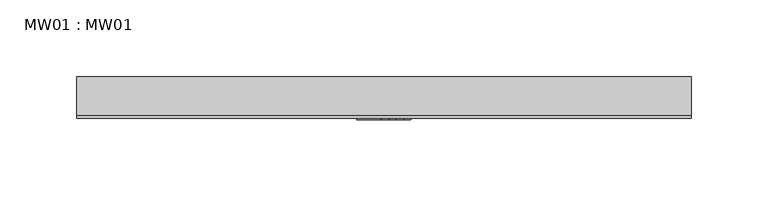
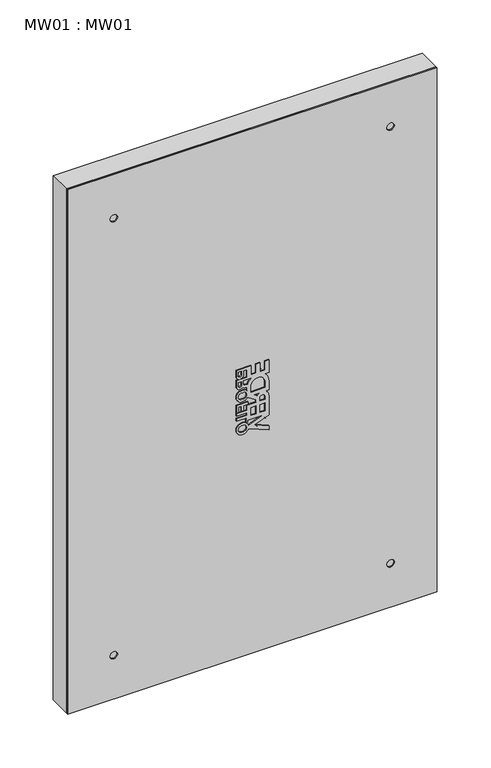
"""IFC4 building model written with IfcOpenShell, lengths in millimetres: furniture geometry, MW01 : MW01."""

from ifc_helpers import new_model, si_unit, point, frame, frame_2d, origin, origin_with_axes, place, context, project, spatial, polyline, circle_curve, trimmed, segment, composite_curve, outline, extrude, source, transform, mapped, element, save
from ifc_brep_helpers import plane_surface, revolved_surface, advanced_brep


def mw01_mw01_6ffa012e(model_context):
    return source(origin(), model_context, "Body", "SolidModel", [
        extrude(outline(composite_curve([segment(polyline([(250.0029313, -17.8017561), (259.1263206, 4.4804085)]), True, "CONTINUOUS"), segment(trimmed(circle_curve(frame_2d((260.9424832, 10.5061675)), 6.293506), [point((259.1263206, 4.4804085))], [point((254.6969645, 11.2818701))], False, "CARTESIAN"), True, "CONTINUOUS"), segment(trimmed(circle_curve(frame_2d((261.0968713, 11.0938845)), 6.4026671), [point((254.6969645, 11.2818701))], [point((267.4967874, 11.2815533))], False, "CARTESIAN"), True, "CONTINUOUS"), segment(trimmed(circle_curve(frame_2d((261.3674332, 10.4824163)), 6.1812298), [point((267.4967874, 11.2815533))], [point((266.6366498, 7.2508596))], False, "CARTESIAN"), True, "CONTINUOUS"), segment(polyline([(266.6366498, 7.2508596), (272.1985578, 7.2508596), (272.1985578, 17.5), (274.9975573, 17.5), (274.9975573, 6.1014296), (278.0324611, 6.1014296), (278.0324611, 17.5), (280.8314606, 17.5), (280.8314606, 6.1014296), (286.6653639, 6.1014296), (286.6653639, -3.6687466), (289.1299713, -3.6687466), (295.1516703, 5.1553517)]), True, "CONTINUOUS"), segment(trimmed(circle_curve(frame_2d((298.3979057, 10.4930021)), 6.247284), [point((295.1516703, 5.1553517))], [point((292.2006286, 11.2818701))], False, "CARTESIAN"), True, "CONTINUOUS"), segment(trimmed(circle_curve(frame_2d((298.6005354, 11.0938845)), 6.4026671), [point((292.2006286, 11.2818701))], [point((305.0003548, 11.2848204))], False, "CARTESIAN"), True, "CONTINUOUS"), segment(trimmed(circle_curve(frame_2d((298.8474176, 10.4841829)), 6.2048092), [point((305.0003548, 11.2848204))], [point((303.236655, 6.0984958))], False, "CARTESIAN"), True, "CONTINUOUS"), segment(polyline([(303.236655, 6.0984958), (306.3722889, 6.0984958)]), True, "CONTINUOUS"), segment(trimmed(circle_curve(frame_2d((306.1013235, -6.4185584)), 12.5199867), [point((306.3722889, 6.0984958))], [point((307.1998065, 6.0531457))], False, "CARTESIAN"), True, "CONTINUOUS"), segment(polyline([(307.1998065, 6.0531457), (307.1957781, 7.2083309)]), True, "CONTINUOUS"), segment(trimmed(circle_curve(frame_2d((310.6445381, 7.5091588)), 3.4618554), [point((307.1957781, 7.2083309))], [point((308.9376041, 10.5209389))], False, "CARTESIAN"), True, "CONTINUOUS"), segment(trimmed(circle_curve(frame_2d((310.9947244, 13.7081154)), 3.7933939), [point((308.9376041, 10.5209389))], [point((311.1017216, 17.5))], False, "CARTESIAN"), True, "CONTINUOUS"), segment(polyline([(311.1017216, 17.5), (318.3351247, 17.5), (318.3351247, 6.1014296), (327.2039318, 6.1014296), (327.2039318, 9.5452342), (322.7695278, 9.5452342)]), True, "CONTINUOUS"), segment(trimmed(circle_curve(frame_2d((322.7616703, 13.4897229)), 3.9444966), [point((322.7695278, 9.5452342))], [point((319.9229293, 10.7510001))], False, "CARTESIAN"), True, "CONTINUOUS"), segment(trimmed(circle_curve(frame_2d((322.6292957, 13.3601243)), 3.7592483), [point((319.9229293, 10.7510001))], [point((318.8735608, 13.5226171))], False, "CARTESIAN"), True, "CONTINUOUS"), segment(trimmed(circle_curve(frame_2d((322.7221332, 13.6496242)), 3.8506675), [point((318.8735608, 13.5226171))], [point((322.7695282, 17.5))], False, "CARTESIAN"), True, "CONTINUOUS"), segment(polyline([(322.7695282, 17.5), (330.0029313, 17.5), (330.0029313, 1.7386502), (320.0019542, 1.7386502), (320.0019542, -3.6687736), (330.0029313, -3.6687736), (330.0029313, -8.0315529), (320.0019542, -8.0315529), (320.0019542, -13.4389767), (330.0029313, -13.4389767), (330.0029313, -17.8017561), (315.5361252, -17.8017561), (315.5361252, -13.4583268)]), True, "CONTINUOUS"), segment(trimmed(circle_curve(frame_2d((306.1263016, -5.4371565)), 12.364625), [point((315.5361252, -13.4583268))], [point((306.1012331, -17.8017561))], False, "CARTESIAN"), True, "CONTINUOUS"), segment(polyline([(306.1012331, -17.8017561), (295.534171, -17.8017561), (295.534171, -14.6461135)]), True, "CONTINUOUS"), segment(trimmed(circle_curve(frame_2d((289.2137213, -9.8969468)), 7.9058629), [point((295.534171, -14.6461135))], [point((289.3427904, -17.8017561))], False, "CARTESIAN"), True, "CONTINUOUS"), segment(polyline([(289.3427904, -17.8017561), (267.380896, -17.8017561), (261.0968362, -2.4541203), (254.8127763, -17.8017561), (250.0029313, -17.8017561)]), True, "CONTINUOUS")], self_intersect=False), holes=[composite_curve([segment(polyline([(327.2039318, 11.8007148), (327.2039318, 15.2445193), (323.2087044, 15.2445193)]), True, "CONTINUOUS"), segment(trimmed(circle_curve(frame_2d((323.2087044, 13.5226171)), 1.7219023), [point((323.2087044, 15.2445193))], [point((323.2087044, 11.8007148))], True, "CARTESIAN"), True, "CONTINUOUS"), segment(polyline([(323.2087044, 11.8007148), (327.2039318, 11.8007148)]), True, "CONTINUOUS")], self_intersect=False), composite_curve([segment(polyline([(315.5361252, 1.756713), (315.5361252, 9.5452342), (311.8915282, 9.5452342)]), True, "CONTINUOUS"), segment(trimmed(circle_curve(frame_2d((312.3213971, 7.7754929)), 1.8212006), [point((311.8915282, 9.5452342))], [point((310.5054953, 7.9143174))], True, "CARTESIAN"), True, "CONTINUOUS"), segment(polyline([(310.5054953, 7.9143174), (310.0755395, 5.4531951)]), True, "CONTINUOUS"), segment(trimmed(circle_curve(frame_2d((306.2024335, -6.149841)), 12.2323913), [point((310.0755395, 5.4531951))], [point((315.5361252, 1.756713))], False, "CARTESIAN"), True, "CONTINUOUS")], self_intersect=False), composite_curve([segment(polyline([(302.2014892, 9.8027257), (302.2014892, 11.7167468)]), True, "CONTINUOUS"), segment(trimmed(circle_curve(frame_2d((298.6005253, 11.6277501)), 3.6020635), [point((302.2014892, 11.7167468))], [point((294.9995114, 11.7147019))], True, "CARTESIAN"), True, "CONTINUOUS"), segment(polyline([(294.9995114, 11.7147019), (294.9995114, 9.8027247)]), True, "CONTINUOUS"), segment(trimmed(circle_curve(frame_2d((298.6005003, 9.8908382)), 3.6020668), [point((294.9995114, 9.8027247))], [point((302.2014892, 9.8027257))], True, "CARTESIAN"), True, "CONTINUOUS")], self_intersect=False), composite_curve([segment(polyline([(257.4958473, 11.7147019), (257.4958473, 9.8027247)]), True, "CONTINUOUS"), segment(trimmed(circle_curve(frame_2d((261.0968362, 9.8908382)), 3.6020668), [point((257.4958473, 9.8027247))], [point((264.6978251, 9.8027258))], True, "CARTESIAN"), True, "CONTINUOUS"), segment(polyline([(264.6978251, 9.8027258), (264.6978251, 11.7167468)]), True, "CONTINUOUS"), segment(trimmed(circle_curve(frame_2d((261.0968612, 11.6277501)), 3.6020635), [point((264.6978251, 11.7167468))], [point((257.4958473, 11.7147019))], True, "CARTESIAN"), True, "CONTINUOUS")], self_intersect=False), composite_curve([segment(polyline([(268.8648988, -9.679011), (268.8648988, 4.9953846), (265.5312397, 4.9953846), (265.5312397, 5.9034033)]), True, "CONTINUOUS"), segment(trimmed(circle_curve(frame_2d((261.1333839, 10.6735224)), 6.4880792), [point((265.5312397, 5.9034033))], [point((263.06736, 4.4803884))], False, "CARTESIAN"), True, "CONTINUOUS"), segment(polyline([(263.06736, 4.4803884), (268.8648988, -9.679011)]), True, "CONTINUOUS")], self_intersect=False), polyline([(273.3307278, -13.4389767), (282.1995349, -13.4389767), (282.1995349, -8.0315529), (273.3307278, -8.0315529), (273.3307278, -13.4389767)]), polyline([(282.1995349, -3.6687735), (282.1995349, 1.7386503), (273.3307278, 1.7386503), (273.3307278, -3.6687735), (282.1995349, -3.6687735)]), composite_curve([segment(polyline([(286.6653639, -13.4390887), (289.4116724, -13.4390887)]), True, "CONTINUOUS"), segment(trimmed(circle_curve(frame_2d((289.4954146, -10.7346219)), 2.7057631), [point((289.4116724, -13.4390887))], [point((289.3746997, -8.0315529))], True, "CARTESIAN"), True, "CONTINUOUS"), segment(polyline([(289.3746997, -8.0315529), (286.6653639, -8.0315529), (286.6653639, -13.4390887)]), True, "CONTINUOUS")], self_intersect=False), composite_curve([segment(polyline([(295.534171, -6.9665296), (295.534171, -2.1490824), (293.5938272, -4.9923454)]), True, "CONTINUOUS"), segment(trimmed(circle_curve(frame_2d((287.7939225, -12.6334651)), 9.5929977), [point((293.5938272, -4.9923454))], [point((295.534171, -6.9665296))], False, "CARTESIAN"), True, "CONTINUOUS")], self_intersect=False), composite_curve([segment(polyline([(300.0, -13.4389767), (306.101233, -13.4389767)]), True, "CONTINUOUS"), segment(trimmed(circle_curve(frame_2d((306.2784141, -5.8501632)), 7.5908816), [point((306.101233, -13.4389767))], [point((306.1012331, 1.7386502))], True, "CARTESIAN"), True, "CONTINUOUS"), segment(polyline([(306.1012331, 1.7386502), (300.0, 1.7386502), (300.0, -13.4389767)]), True, "CONTINUOUS")], self_intersect=False), composite_curve([segment(polyline([(315.5361252, 11.8007148), (315.5361252, 15.2445193), (311.5408978, 15.2445193)]), True, "CONTINUOUS"), segment(trimmed(circle_curve(frame_2d((311.5408978, 13.5226171)), 1.7219023), [point((311.5408978, 15.2445193))], [point((311.5408978, 11.8007148))], True, "CARTESIAN"), True, "CONTINUOUS"), segment(polyline([(311.5408978, 11.8007148), (315.5361252, 11.8007148)]), True, "CONTINUOUS")], self_intersect=False)]), frame((0.0, 1.0, 0.0), z_axis=(0.0, 1.0, 0.0), x_axis=(0.0, 0.0, 1.0)), (0.0, 0.0, 1.0), 1.0),
        extrude(outline(polyline([(287.2000234, 11.8007148), (287.2000234, 15.2445194), (281.3661201, 15.2445194), (281.3661201, 17.5), (289.9990229, 17.5), (289.9990229, 4.9953846), (287.2000234, 4.9953846), (287.2000234, 9.5452342), (281.3661201, 9.5452342), (281.3661201, 11.8007148), (287.2000234, 11.8007148)])), frame((0.0, 1.0, 0.0), z_axis=(0.0, 1.0, 0.0), x_axis=(0.0, 0.0, 1.0)), (0.0, 0.0, 1.0), 1.0),
        extrude(outline(composite_curve([segment(polyline([(250.0029313, 17.5), (254.8127763, 17.5), (261.0968362, 2.1523642), (267.380896, 17.5), (289.3427904, 17.5)]), True, "CONTINUOUS"), segment(trimmed(circle_curve(frame_2d((289.2137213, 9.5951908)), 7.9058629), [point((289.3427904, 17.5))], [point((295.534171, 14.3443574))], False, "CARTESIAN"), True, "CONTINUOUS"), segment(polyline([(295.534171, 14.3443574), (295.534171, 17.5), (306.1012331, 17.5)]), True, "CONTINUOUS"), segment(trimmed(circle_curve(frame_2d((306.1263016, 5.1354004)), 12.364625), [point((306.1012331, 17.5))], [point((315.5361252, 13.1565707))], False, "CARTESIAN"), True, "CONTINUOUS"), segment(polyline([(315.5361252, 13.1565707), (315.5361252, 17.5), (330.0029313, 17.5), (330.0029313, 13.1372206), (320.0019542, 13.1372206), (320.0019542, 7.7297968), (330.0029313, 7.7297968), (330.0029313, 3.3670175), (320.0019542, 3.3670175), (320.0019542, -2.0404063), (330.0029313, -2.0404063), (330.0029313, -17.8017561), (322.7695282, -17.8017561)]), True, "CONTINUOUS"), segment(trimmed(circle_curve(frame_2d((322.7221332, -13.9513803)), 3.8506675), [point((322.7695282, -17.8017561))], [point((318.8735608, -13.8243732))], False, "CARTESIAN"), True, "CONTINUOUS"), segment(trimmed(circle_curve(frame_2d((322.6292957, -13.6618804)), 3.7592483), [point((318.8735608, -13.8243732))], [point((319.9229293, -11.0527562))], False, "CARTESIAN"), True, "CONTINUOUS"), segment(trimmed(circle_curve(frame_2d((322.7616703, -13.791479)), 3.9444966), [point((319.9229293, -11.0527562))], [point((322.7695278, -9.8469903))], False, "CARTESIAN"), True, "CONTINUOUS"), segment(polyline([(322.7695278, -9.8469903), (327.2039318, -9.8469903), (327.2039318, -6.4031857), (318.3351247, -6.4031857), (318.3351247, -17.8017561), (311.1017216, -17.8017561)]), True, "CONTINUOUS"), segment(trimmed(circle_curve(frame_2d((310.9947244, -14.0098715)), 3.7933939), [point((311.1017216, -17.8017561))], [point((308.9376041, -10.822695))], False, "CARTESIAN"), True, "CONTINUOUS"), segment(trimmed(circle_curve(frame_2d((310.6445381, -7.8109149)), 3.4618554), [point((308.9376041, -10.822695))], [point((307.1957781, -7.510087))], False, "CARTESIAN"), True, "CONTINUOUS"), segment(polyline([(307.1957781, -7.510087), (307.1998065, -6.3549018)]), True, "CONTINUOUS"), segment(trimmed(circle_curve(frame_2d((306.1013235, 6.1168023)), 12.5199867), [point((307.1998065, -6.3549018))], [point((306.3722889, -6.4002519))], False, "CARTESIAN"), True, "CONTINUOUS"), segment(polyline([(306.3722889, -6.4002519), (303.236655, -6.4002519)]), True, "CONTINUOUS"), segment(trimmed(circle_curve(frame_2d((298.8474176, -10.785939)), 6.2048092), [point((303.236655, -6.4002519))], [point((305.0003548, -11.5865765))], False, "CARTESIAN"), True, "CONTINUOUS"), segment(trimmed(circle_curve(frame_2d((298.6005354, -11.3956406)), 6.4026671), [point((305.0003548, -11.5865765))], [point((292.2006286, -11.5836262))], False, "CARTESIAN"), True, "CONTINUOUS"), segment(trimmed(circle_curve(frame_2d((298.3979057, -10.7947582)), 6.247284), [point((292.2006286, -11.5836262))], [point((295.1516703, -5.4571078))], False, "CARTESIAN"), True, "CONTINUOUS"), segment(polyline([(295.1516703, -5.4571078), (289.1299713, 3.3669905), (286.6653639, 3.3669905), (286.6653639, -6.4031857), (280.8314606, -6.4031857), (280.8314606, -17.8017561), (278.0324611, -17.8017561), (278.0324611, -6.4031857), (274.9975573, -6.4031857), (274.9975573, -17.8017561), (272.1985578, -17.8017561), (272.1985578, -7.5526157), (266.6366498, -7.5526157)]), True, "CONTINUOUS"), segment(trimmed(circle_curve(frame_2d((261.3674332, -10.7841724)), 6.1812298), [point((266.6366498, -7.5526157))], [point((267.4967874, -11.5833094))], False, "CARTESIAN"), True, "CONTINUOUS"), segment(trimmed(circle_curve(frame_2d((261.0968713, -11.3956406)), 6.4026671), [point((267.4967874, -11.5833094))], [point((254.6969645, -11.5836262))], False, "CARTESIAN"), True, "CONTINUOUS"), segment(trimmed(circle_curve(frame_2d((260.9424832, -10.8079236)), 6.293506), [point((254.6969645, -11.5836262))], [point((259.1263206, -4.7821646))], False, "CARTESIAN"), True, "CONTINUOUS"), segment(polyline([(259.1263206, -4.7821646), (250.0029313, 17.5)]), True, "CONTINUOUS")], self_intersect=False), holes=[composite_curve([segment(polyline([(327.2039318, -12.1024709), (323.2087044, -12.1024709)]), True, "CONTINUOUS"), segment(trimmed(circle_curve(frame_2d((323.2087044, -13.8243732)), 1.7219023), [point((323.2087044, -12.1024709))], [point((323.2087044, -15.5462754))], True, "CARTESIAN"), True, "CONTINUOUS"), segment(polyline([(323.2087044, -15.5462754), (327.2039318, -15.5462754), (327.2039318, -12.1024709)]), True, "CONTINUOUS")], self_intersect=False), composite_curve([segment(trimmed(circle_curve(frame_2d((306.2024335, 5.8480849)), 12.2323913), [point((315.5361252, -2.0584691))], [point((310.0755395, -5.7549512))], False, "CARTESIAN"), True, "CONTINUOUS"), segment(polyline([(310.0755395, -5.7549512), (310.5054953, -8.2160735)]), True, "CONTINUOUS"), segment(trimmed(circle_curve(frame_2d((312.3213971, -8.077249)), 1.8212006), [point((310.5054953, -8.2160735))], [point((311.8915282, -9.8469903))], True, "CARTESIAN"), True, "CONTINUOUS"), segment(polyline([(311.8915282, -9.8469903), (315.5361252, -9.8469903), (315.5361252, -2.0584691)]), True, "CONTINUOUS")], self_intersect=False), composite_curve([segment(trimmed(circle_curve(frame_2d((298.6005003, -10.1925943)), 3.6020668), [point((302.2014892, -10.1044818))], [point((294.9995114, -10.1044808))], True, "CARTESIAN"), True, "CONTINUOUS"), segment(polyline([(294.9995114, -10.1044808), (294.9995114, -12.016458)]), True, "CONTINUOUS"), segment(trimmed(circle_curve(frame_2d((298.6005253, -11.9295062)), 3.6020635), [point((294.9995114, -12.016458))], [point((302.2014892, -12.0185029))], True, "CARTESIAN"), True, "CONTINUOUS"), segment(polyline([(302.2014892, -12.0185029), (302.2014892, -10.1044818)]), True, "CONTINUOUS")], self_intersect=False), composite_curve([segment(trimmed(circle_curve(frame_2d((261.0968612, -11.9295062)), 3.6020635), [point((257.4958473, -12.016458))], [point((264.6978251, -12.0185029))], True, "CARTESIAN"), True, "CONTINUOUS"), segment(polyline([(264.6978251, -12.0185029), (264.6978251, -10.1044819)]), True, "CONTINUOUS"), segment(trimmed(circle_curve(frame_2d((261.0968362, -10.1925943)), 3.6020668), [point((264.6978251, -10.1044819))], [point((257.4958473, -10.1044808))], True, "CARTESIAN"), True, "CONTINUOUS"), segment(polyline([(257.4958473, -10.1044808), (257.4958473, -12.016458)]), True, "CONTINUOUS")], self_intersect=False), composite_curve([segment(polyline([(268.8648988, 9.3772549), (263.06736, -4.7821445)]), True, "CONTINUOUS"), segment(trimmed(circle_curve(frame_2d((261.1333839, -10.9752785)), 6.4880792), [point((263.06736, -4.7821445))], [point((265.5312397, -6.2051594))], False, "CARTESIAN"), True, "CONTINUOUS"), segment(polyline([(265.5312397, -6.2051594), (265.5312397, -5.2971407), (268.8648988, -5.2971407), (268.8648988, 9.3772549)]), True, "CONTINUOUS")], self_intersect=False), polyline([(273.3307278, 13.1372206), (273.3307278, 7.7297968), (282.1995349, 7.7297968), (282.1995349, 13.1372206), (273.3307278, 13.1372206)]), polyline([(282.1995349, 3.3670174), (273.3307278, 3.3670174), (273.3307278, -2.0404064), (282.1995349, -2.0404064), (282.1995349, 3.3670174)]), composite_curve([segment(polyline([(286.6653639, 13.1373326), (286.6653639, 7.7297968), (289.3746997, 7.7297968)]), True, "CONTINUOUS"), segment(trimmed(circle_curve(frame_2d((289.4954146, 10.4328658)), 2.7057631), [point((289.3746997, 7.7297968))], [point((289.4116724, 13.1373326))], True, "CARTESIAN"), True, "CONTINUOUS"), segment(polyline([(289.4116724, 13.1373326), (286.6653639, 13.1373326)]), True, "CONTINUOUS")], self_intersect=False), composite_curve([segment(trimmed(circle_curve(frame_2d((287.7939225, 12.331709)), 9.5929977), [point((295.534171, 6.6647735))], [point((293.5938272, 4.6905893))], False, "CARTESIAN"), True, "CONTINUOUS"), segment(polyline([(293.5938272, 4.6905893), (295.534171, 1.8473263), (295.534171, 6.6647735)]), True, "CONTINUOUS")], self_intersect=False), composite_curve([segment(polyline([(300.0, 13.1372206), (300.0, -2.0404063), (306.1012331, -2.0404063)]), True, "CONTINUOUS"), segment(trimmed(circle_curve(frame_2d((306.2784141, 5.5484071)), 7.5908816), [point((306.1012331, -2.0404063))], [point((306.101233, 13.1372206))], True, "CARTESIAN"), True, "CONTINUOUS"), segment(polyline([(306.101233, 13.1372206), (300.0, 13.1372206)]), True, "CONTINUOUS")], self_intersect=False), composite_curve([segment(polyline([(315.5361252, -12.1024709), (311.5408978, -12.1024709)]), True, "CONTINUOUS"), segment(trimmed(circle_curve(frame_2d((311.5408978, -13.8243732)), 1.7219023), [point((311.5408978, -12.1024709))], [point((311.5408978, -15.5462754))], True, "CARTESIAN"), True, "CONTINUOUS"), segment(polyline([(311.5408978, -15.5462754), (315.5361252, -15.5462754), (315.5361252, -12.1024709)]), True, "CONTINUOUS")], self_intersect=False)]), frame((0.0, -1.0, 0.0), z_axis=(0.0, 1.0, 0.0), x_axis=(0.0, 0.0, 1.0)), (0.0, 0.0, 1.0), 1.0),
        extrude(outline(polyline([(287.2000234, -12.1024709), (281.3661201, -12.1024709), (281.3661201, -9.8469903), (287.2000234, -9.8469903), (287.2000234, -5.2971407), (289.9990229, -5.2971407), (289.9990229, -17.8017561), (281.3661201, -17.8017561), (281.3661201, -15.5462755), (287.2000234, -15.5462755), (287.2000234, -12.1024709)])), frame((0.0, -1.0, 0.0), z_axis=(0.0, 1.0, 0.0), x_axis=(0.0, 0.0, 1.0)), (0.0, 0.0, 1.0), 1.0),
        extrude(outline(polyline([(-200.0, 2.0), (-200.0, 27.0), (200.0, 27.0), (200.0, 2.0), (-200.0, 2.0)])), origin_with_axes(), (0.0, 0.0, 1.0), 600.0),
        advanced_brep(
        [(200.0, 0.0, 600.0), (200.0, 0.0, 0.0), (200.0, 2.0, 0.0), (200.0, 2.0, 600.0), (-200.0, 0.0, 0.0), (-200.0, 0.0, 600.0), (-200.0, 2.0, 600.0), (-200.0, 2.0, 0.0), (198.0, 1.0, 2.0), (-198.0, 1.0, 2.0), (-198.0, 1.0, 598.0), (198.0, 1.0, 598.0), (-146.0, 1.0, 550.0), (-154.0, 1.0, 550.0), (154.0, 1.0, 550.0), (146.0, 1.0, 550.0), (154.0, 1.0, 50.0), (146.0, 1.0, 50.0), (-146.0, 1.0, 50.0), (-154.0, 1.0, 50.0), (-154.0, 0.0, 550.0), (-146.0, 0.0, 550.0), (146.0, 0.0, 550.0), (154.0, 0.0, 550.0), (146.0, 0.0, 50.0), (154.0, 0.0, 50.0), (-154.0, 0.0, 50.0), (-146.0, 0.0, 50.0), (198.0, 2.0, 2.0), (198.0, 2.0, 598.0), (-198.0, 2.0, 2.0), (-198.0, 2.0, 598.0)],
        [
            (0, 1),
            (1, 2),
            (2, 3),
            (3, 0),
            (4, 5),
            (5, 6),
            (6, 7),
            (7, 4),
            (8, 9),
            (9, 10),
            (10, 11),
            (11, 8),
            (12, 13, circle_curve(frame((-150.0, 1.0, 550.0), z_axis=(0.0, -1.0, 0.0), x_axis=(1.0, 0.0, 0.0)), 4.0)),
            (13, 12, circle_curve(frame((-150.0, 1.0, 550.0), z_axis=(0.0, -1.0, 0.0), x_axis=(1.0, 0.0, 0.0)), 4.0)),
            (14, 15, circle_curve(frame((150.0, 1.0, 550.0), z_axis=(0.0, -1.0, 0.0), x_axis=(1.0, 0.0, 0.0)), 4.0)),
            (15, 14, circle_curve(frame((150.0, 1.0, 550.0), z_axis=(0.0, -1.0, 0.0), x_axis=(1.0, 0.0, 0.0)), 4.0)),
            (16, 17, circle_curve(frame((150.0, 1.0, 50.0), z_axis=(0.0, -1.0, 0.0), x_axis=(1.0, 0.0, 0.0)), 4.0)),
            (17, 16, circle_curve(frame((150.0, 1.0, 50.0), z_axis=(0.0, -1.0, 0.0), x_axis=(1.0, 0.0, 0.0)), 4.0)),
            (18, 19, circle_curve(frame((-150.0, 1.0, 50.0), z_axis=(0.0, -1.0, 0.0), x_axis=(1.0, 0.0, 0.0)), 4.0)),
            (19, 18, circle_curve(frame((-150.0, 1.0, 50.0), z_axis=(0.0, -1.0, 0.0), x_axis=(1.0, 0.0, 0.0)), 4.0)),
            (0, 5),
            (4, 1),
            (20, 21, circle_curve(frame((-150.0, 0.0, 550.0), z_axis=(0.0, 1.0, 0.0), x_axis=(1.0, 0.0, 0.0)), 4.0)),
            (21, 20, circle_curve(frame((-150.0, 0.0, 550.0), z_axis=(0.0, 1.0, 0.0), x_axis=(1.0, 0.0, 0.0)), 4.0)),
            (22, 23, circle_curve(frame((150.0, 0.0, 550.0), z_axis=(0.0, 1.0, 0.0), x_axis=(1.0, 0.0, 0.0)), 4.0)),
            (23, 22, circle_curve(frame((150.0, 0.0, 550.0), z_axis=(0.0, 1.0, 0.0), x_axis=(1.0, 0.0, 0.0)), 4.0)),
            (24, 25, circle_curve(frame((150.0, 0.0, 50.0), z_axis=(0.0, 1.0, 0.0), x_axis=(1.0, 0.0, 0.0)), 4.0)),
            (25, 24, circle_curve(frame((150.0, 0.0, 50.0), z_axis=(0.0, 1.0, 0.0), x_axis=(1.0, 0.0, 0.0)), 4.0)),
            (26, 27, circle_curve(frame((-150.0, 0.0, 50.0), z_axis=(0.0, 1.0, 0.0), x_axis=(1.0, 0.0, 0.0)), 4.0)),
            (27, 26, circle_curve(frame((-150.0, 0.0, 50.0), z_axis=(0.0, 1.0, 0.0), x_axis=(1.0, 0.0, 0.0)), 4.0)),
            (28, 8),
            (11, 29),
            (29, 28),
            (7, 2),
            (30, 9),
            (28, 30),
            (31, 10),
            (30, 31),
            (3, 6),
            (31, 29),
            (21, 12),
            (13, 20),
            (23, 14),
            (15, 22),
            (25, 16),
            (17, 24),
            (27, 18),
            (19, 26),
        ],
        [
            plane_surface(frame((200.0, 1.0, 598.0), z_axis=(1.0, 0.0, 0.0), x_axis=(0.0, 0.0, -1.0))),
            plane_surface(frame((-200.0, 1.0, 598.0), z_axis=(-1.0, 0.0, 0.0), x_axis=(0.0, 0.0, 1.0))),
            plane_surface(frame((200.0, 1.0, 598.0), z_axis=(0.0, 1.0, 0.0), x_axis=(-1.0, 0.0, 0.0))),
            plane_surface(frame((200.0, 0.0, 2.0), z_axis=(0.0, -1.0, 0.0), x_axis=(-1.0, 0.0, 0.0))),
            plane_surface(frame((198.0, 0.0, 598.0), z_axis=(-1.0, 0.0, 0.0), x_axis=(0.0, 0.0, -1.0))),
            plane_surface(frame((200.0, 2.0, 0.0), z_axis=(0.0, 0.0, -1.0), x_axis=(-1.0, 0.0, 0.0))),
            plane_surface(frame((198.0, 0.0, 2.0), z_axis=(0.0, 0.0, 1.0), x_axis=(-1.0, 0.0, 0.0))),
            plane_surface(frame((-198.0, 0.0, 2.0), z_axis=(1.0, 0.0, 0.0), x_axis=(0.0, 0.0, 1.0))),
            plane_surface(frame((-200.0, 2.0, 600.0), z_axis=(0.0, 0.0, 1.0), x_axis=(1.0, 0.0, 0.0))),
            plane_surface(frame((-198.0, 0.0, 598.0), z_axis=(0.0, 0.0, -1.0), x_axis=(1.0, 0.0, 0.0))),
            plane_surface(frame((-198.0, 2.0, 598.0), z_axis=(0.0, 1.0, 0.0), x_axis=(1.0, 0.0, 0.0))),
            revolved_surface(polyline([(-146.0, 1.0, 550.0), (-146.0, 0.0, 550.0)]), (-150.0, -150.7806314, 550.0), (0.0, 1.0, 0.0)),
            revolved_surface(polyline([(154.0, 1.0, 550.0), (154.0, 0.0, 550.0)]), (150.0, 0.0, 550.0), (0.0, 1.0, 0.0)),
            revolved_surface(polyline([(154.0, 1.0, 50.0), (154.0, 0.0, 50.0)]), (150.0, 0.0, 50.0), (0.0, 1.0, 0.0)),
            revolved_surface(polyline([(-146.0, 1.0, 50.0), (-146.0, 0.0, 50.0)]), (-150.0, 0.0, 50.0), (0.0, 1.0, 0.0)),
        ],
        [
            (0, [[1, 2, 3, 4]]),
            (1, [[5, 6, 7, 8]]),
            (2, [[9, 10, 11, 12], [13, 14], [15, 16], [17, 18], [19, 20]]),
            (3, [[-1, 21, -5, 22], [23, 24], [25, 26], [27, 28], [29, 30]]),
            (4, [[31, -12, 32, 33]]),
            (5, [[-22, -8, 34, -2]]),
            (6, [[35, -9, -31, 36]]),
            (7, [[37, -10, -35, 38]]),
            (8, [[39, -6, -21, -4]]),
            (9, [[-32, -11, -37, 40]]),
            (10, [[-34, -7, -39, -3], [-40, -38, -36, -33]]),
            (11, [[-24, 41, -14, 42]]),
            (11, [[-13, -41, -23, -42]]),
            (12, [[-26, 43, -16, 44]]),
            (12, [[-15, -43, -25, -44]]),
            (13, [[-28, 45, -18, 46]]),
            (13, [[-17, -45, -27, -46]]),
            (14, [[-30, 47, -20, 48]]),
            (14, [[-19, -47, -29, -48]]),
        ],
    ),
    ])


if __name__ == "__main__":
    model = new_model("IFC4")
    model_context = context("Model", 3, world=origin())
    ifc_project = project(units=[si_unit("LENGTHUNIT", "METRE", prefix="MILLI")], contexts=[model_context])
    site = spatial("IfcSite", under=ifc_project)
    building = spatial("IfcBuilding", under=site)
    placement = place(None, origin())
    mw01_mw01_shape = mw01_mw01_6ffa012e(model_context)
    element("IfcFurniture", 1, ObjectType="MW01 : MW01", at=placement, inside=building, context=model_context, shape_type="MappedRepresentation", body=[
        mapped(mw01_mw01_shape, transform((0.0, 0.0, 0.0), x_axis=(1.0, 0.0, 0.0), y_axis=(0.0, 1.0, 0.0), z_axis=(0.0, 0.0, 1.0))),
    ])
    save(model, "model.ifc")
